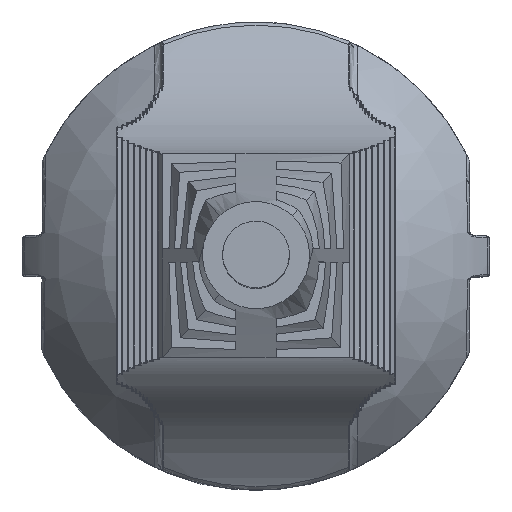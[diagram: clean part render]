
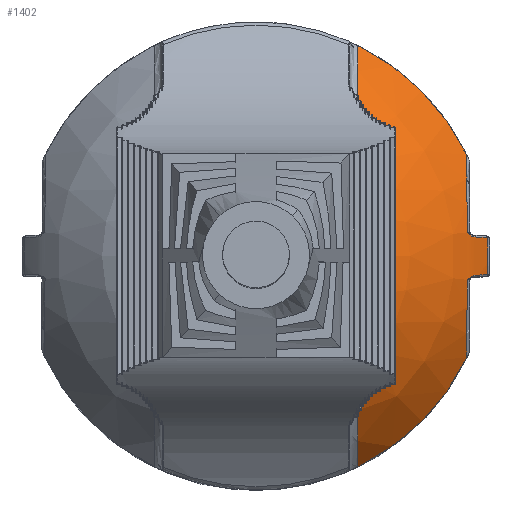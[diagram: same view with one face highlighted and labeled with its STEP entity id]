
A CAD part, top view. The second image highlights one B-rep face of the part: STEP entity #1402.
In plain terms, the highlighted spherical face has radius 20.312 mm.
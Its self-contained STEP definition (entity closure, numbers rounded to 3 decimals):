
#1121=CARTESIAN_POINT('',(16.236,-1.448,16.808));
#1122=VERTEX_POINT('',#1121);
#1123=CARTESIAN_POINT('',(15.78,-1.776,17.354));
#1124=VERTEX_POINT('',#1123);
#1125=CARTESIAN_POINT('',(16.236,-1.448,16.808));
#1126=CARTESIAN_POINT('',(16.078,-1.489,17.014));
#1127=CARTESIAN_POINT('',(15.927,-1.629,17.192));
#1128=CARTESIAN_POINT('',(15.78,-1.775,17.353));
#1129=CARTESIAN_POINT('',(15.78,-1.775,17.354));
#1130=CARTESIAN_POINT('',(15.78,-1.776,17.354));
#1131=B_SPLINE_CURVE_WITH_KNOTS('',3,(#1125,#1126,#1127,#1128,#1129,#1130),.UNSPECIFIED.,.F.,.U.,(4,2,4),(0.0,0.078,0.078),.UNSPECIFIED.);
#1132=EDGE_CURVE('',#1122,#1124,#1131,.T.);
#1209=CARTESIAN_POINT('',(17.3,-1.376,15.243));
#1210=VERTEX_POINT('',#1209);
#1242=CARTESIAN_POINT('',(16.301,-1.438,16.721));
#1243=VERTEX_POINT('',#1242);
#1261=CARTESIAN_POINT('',(0.151,-2.438,4.687));
#1262=DIRECTION('',(0.062,-0.998,0.));
#1263=DIRECTION('',(0.824,0.051,0.565));
#1264=AXIS2_PLACEMENT_3D('',#1261,#1262,#1263);
#1265=CIRCLE('',#1264,20.165);
#1266=EDGE_CURVE('',#1210,#1243,#1265,.T.);
#1293=CARTESIAN_POINT('',(16.301,-1.438,16.721));
#1294=CARTESIAN_POINT('',(16.28,-1.439,16.75));
#1295=CARTESIAN_POINT('',(16.258,-1.443,16.779));
#1296=CARTESIAN_POINT('',(16.236,-1.448,16.808));
#1297=B_SPLINE_CURVE_WITH_KNOTS('',3,(#1293,#1294,#1295,#1296),.UNSPECIFIED.,.F.,.U.,(4,4),(-0.011,0.0),.UNSPECIFIED.);
#1298=EDGE_CURVE('',#1243,#1122,#1297,.T.);
#1311=CARTESIAN_POINT('',(0.0,0.0,4.687));
#1312=DIRECTION('',(0.0,0.0,1.0));
#1313=DIRECTION('',(1.0,0.0,0.0));
#1314=AXIS2_PLACEMENT_3D('',#1311,#1312,#1313);
#1315=SPHERICAL_SURFACE('',#1314,20.313);
#1316=ORIENTED_EDGE('',*,*,#1132,.F.);
#1317=ORIENTED_EDGE('',*,*,#1298,.F.);
#1318=ORIENTED_EDGE('',*,*,#1266,.F.);
#1319=CARTESIAN_POINT('',(17.3,1.376,15.243));
#1320=VERTEX_POINT('',#1319);
#1321=CARTESIAN_POINT('',(0.0,0.0,15.243));
#1322=DIRECTION('',(0.0,0.0,-1.0));
#1323=DIRECTION('',(1.0,0.0,0.0));
#1324=AXIS2_PLACEMENT_3D('',#1321,#1322,#1323);
#1325=CIRCLE('',#1324,17.354);
#1326=EDGE_CURVE('',#1320,#1210,#1325,.T.);
#1327=ORIENTED_EDGE('',*,*,#1326,.F.);
#1328=CARTESIAN_POINT('',(16.301,1.438,16.721));
#1329=VERTEX_POINT('',#1328);
#1330=CARTESIAN_POINT('',(0.151,2.438,4.687));
#1331=DIRECTION('',(0.062,0.998,0.0));
#1332=DIRECTION('',(0.824,-0.051,0.565));
#1333=AXIS2_PLACEMENT_3D('',#1330,#1331,#1332);
#1334=CIRCLE('',#1333,20.165);
#1335=EDGE_CURVE('',#1329,#1320,#1334,.T.);
#1336=ORIENTED_EDGE('',*,*,#1335,.F.);
#1337=CARTESIAN_POINT('',(16.236,1.448,16.808));
#1338=VERTEX_POINT('',#1337);
#1339=CARTESIAN_POINT('',(16.236,1.448,16.808));
#1340=CARTESIAN_POINT('',(16.258,1.443,16.779));
#1341=CARTESIAN_POINT('',(16.28,1.439,16.75));
#1342=CARTESIAN_POINT('',(16.301,1.438,16.721));
#1343=B_SPLINE_CURVE_WITH_KNOTS('',3,(#1339,#1340,#1341,#1342),.UNSPECIFIED.,.F.,.U.,(4,4),(0.0,0.011),.UNSPECIFIED.);
#1344=EDGE_CURVE('',#1338,#1329,#1343,.T.);
#1345=ORIENTED_EDGE('',*,*,#1344,.F.);
#1346=CARTESIAN_POINT('',(15.78,1.776,17.354));
#1347=VERTEX_POINT('',#1346);
#1348=CARTESIAN_POINT('',(15.78,1.776,17.354));
#1349=CARTESIAN_POINT('',(15.78,1.775,17.354));
#1350=CARTESIAN_POINT('',(15.78,1.775,17.353));
#1351=CARTESIAN_POINT('',(15.927,1.629,17.192));
#1352=CARTESIAN_POINT('',(16.078,1.489,17.014));
#1353=CARTESIAN_POINT('',(16.236,1.448,16.808));
#1354=B_SPLINE_CURVE_WITH_KNOTS('',3,(#1348,#1349,#1350,#1351,#1352,#1353),.UNSPECIFIED.,.F.,.U.,(4,2,4),(0.,0.0,0.078),.UNSPECIFIED.);
#1355=EDGE_CURVE('',#1347,#1338,#1354,.T.);
#1356=ORIENTED_EDGE('',*,*,#1355,.F.);
#1357=CARTESIAN_POINT('',(15.777,7.557,15.012));
#1358=VERTEX_POINT('',#1357);
#1359=CARTESIAN_POINT('',(15.78,0.008,4.687));
#1360=DIRECTION('',(1.,0.,0.));
#1361=DIRECTION('',(0.,0.355,0.935));
#1362=AXIS2_PLACEMENT_3D('',#1359,#1360,#1361);
#1363=CIRCLE('',#1362,12.79);
#1364=EDGE_CURVE('',#1358,#1347,#1363,.T.);
#1365=ORIENTED_EDGE('',*,*,#1364,.F.);
#1366=CARTESIAN_POINT('',(7.625,15.744,15.012));
#1367=VERTEX_POINT('',#1366);
#1368=CARTESIAN_POINT('',(0.0,0.0,15.012));
#1369=DIRECTION('',(0.0,0.0,-1.0));
#1370=DIRECTION('',(0.719,0.695,0.0));
#1371=AXIS2_PLACEMENT_3D('',#1368,#1369,#1370);
#1372=CIRCLE('',#1371,17.493);
#1373=EDGE_CURVE('',#1367,#1358,#1372,.T.);
#1374=ORIENTED_EDGE('',*,*,#1373,.F.);
#1375=CARTESIAN_POINT('',(7.625,-15.744,15.012));
#1376=VERTEX_POINT('',#1375);
#1377=CARTESIAN_POINT('',(7.625,0.0,4.687));
#1378=DIRECTION('',(-1.0,0.0,0.0));
#1379=DIRECTION('',(0.0,0.0,1.0));
#1380=AXIS2_PLACEMENT_3D('',#1377,#1378,#1379);
#1381=CIRCLE('',#1380,18.827);
#1382=EDGE_CURVE('',#1376,#1367,#1381,.T.);
#1383=ORIENTED_EDGE('',*,*,#1382,.F.);
#1384=CARTESIAN_POINT('',(15.777,-7.557,15.012));
#1385=VERTEX_POINT('',#1384);
#1386=CARTESIAN_POINT('',(0.0,0.0,15.012));
#1387=DIRECTION('',(0.0,0.0,-1.0));
#1388=DIRECTION('',(0.719,-0.695,0.0));
#1389=AXIS2_PLACEMENT_3D('',#1386,#1387,#1388);
#1390=CIRCLE('',#1389,17.493);
#1391=EDGE_CURVE('',#1385,#1376,#1390,.T.);
#1392=ORIENTED_EDGE('',*,*,#1391,.F.);
#1393=CARTESIAN_POINT('',(15.78,-0.008,4.687));
#1394=DIRECTION('',(1.,0.,0.));
#1395=DIRECTION('',(0.,-0.355,0.935));
#1396=AXIS2_PLACEMENT_3D('',#1393,#1394,#1395);
#1397=CIRCLE('',#1396,12.79);
#1398=EDGE_CURVE('',#1124,#1385,#1397,.T.);
#1399=ORIENTED_EDGE('',*,*,#1398,.F.);
#1400=EDGE_LOOP('',(#1316,#1317,#1318,#1327,#1336,#1345,#1356,#1365,#1374,#1383,#1392,#1399));
#1401=FACE_OUTER_BOUND('',#1400,.T.);
#1402=ADVANCED_FACE('',(#1401),#1315,.T.);
